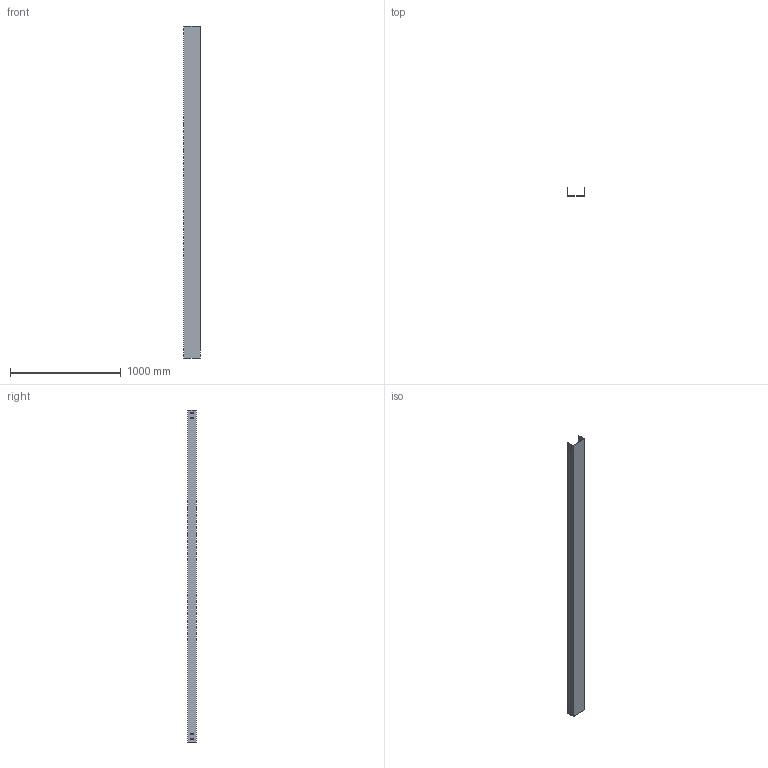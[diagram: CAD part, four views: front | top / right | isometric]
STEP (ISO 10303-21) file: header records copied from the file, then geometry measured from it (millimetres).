
FILE_DESCRIPTION (( 'STEP AP214' ), '1' );
FILE_NAME ('CC_157.step', '2025-07-16T09:04:02', ( '' ), ( '' ), 'SwSTEP 2.0', 'SolidWorks 2023', '' );
FILE_SCHEMA (( 'AUTOMOTIVE_DESIGN' ));
Length unit declared in the file: millimetre
Products named in the file (1): CC_157
Bounding box: 150 x 75 x 3000 mm (x, y, z)
Volume: 1334820 mm3; surface area: 1790467 mm2
Topology: 1 solids, 1 shells, 74 faces, 216 edges, 144 vertices
Faces by surface type: plane 74
Entity records: 2487 total; most frequent: CARTESIAN_POINT 435, ORIENTED_EDGE 432, DIRECTION 366, LINE 216, VECTOR 216, EDGE_CURVE 216, VERTEX_POINT 144, EDGE_LOOP 106
